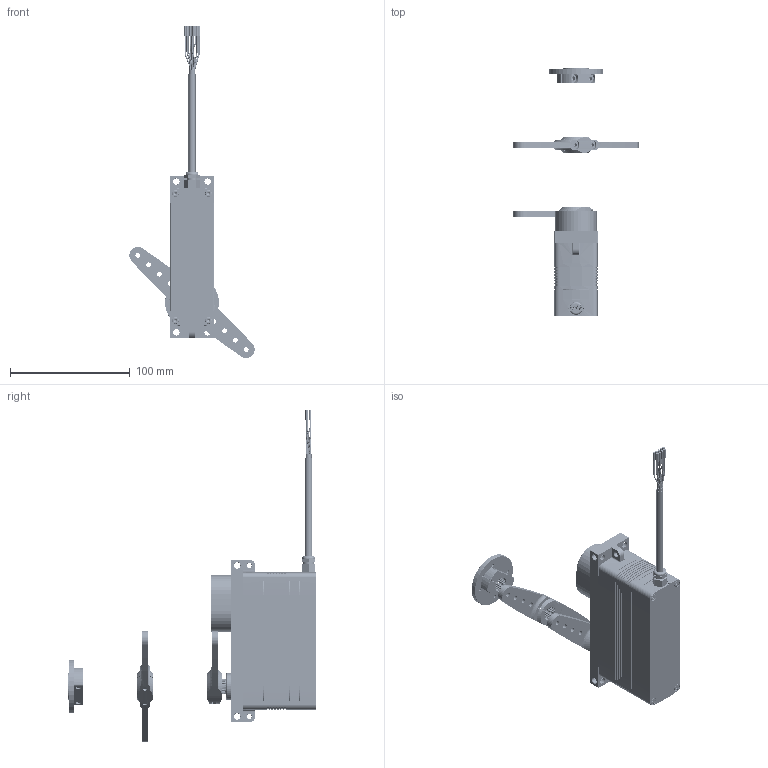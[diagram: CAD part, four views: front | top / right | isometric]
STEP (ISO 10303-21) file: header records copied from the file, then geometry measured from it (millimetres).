
FILE_DESCRIPTION (( 'STEP AP214' ), '1' );
FILE_NAME ('DA 36 LP_Servo SC with arm_00.STEP', '2024-02-13T09:52:26', ( '' ), ( '' ), 'SwSTEP 2.0', 'SolidWorks 2021', '' );
FILE_SCHEMA (( 'AUTOMOTIVE_DESIGN' ));
Length unit declared in the file: millimetre
Products named in the file (12): DIN 912 M4 x 12 --- 12S_DIN 912 M4 x 12 --- 12S; DA 30_Servoscheibe_413-4140-02; DA 30_Servoscheibe_413-4040-02; Helicoil M4 x 8; DIN 912 M4 x 12 --- 12N_DIN 912 M4 x 12 --- 12N; DA 30_Servohebel Doppelarm_413-4900-02; DA 30_Servohebel Doppelarm_413-4930-02; DA 36 LP_Servo SC with arm_00; DA 30_Servohebel Einzelarm_413-4800-04; DA 30_Servohebel Einzelarm_413-4020-04; Teil26^DA 36 Low Profile_Servo SC_693-9000-00; socket head cap screw_din_DIN 912 M4 x 16 --- 16C
Assembly tree (17 placements, depth 3):
  DA 36 LP_Servo SC with arm_00
    DA 30_Servohebel Einzelarm_413-4800-04
      DA 30_Servohebel Einzelarm_413-4020-04
      Helicoil M4 x 8
      DIN 912 M4 x 12 --- 12N_DIN 912 M4 x 12 --- 12N
    DA 30_Servohebel Doppelarm_413-4900-02
      DA 30_Servohebel Doppelarm_413-4930-02
      Helicoil M4 x 8  x2
      socket head cap screw_din_DIN 912 M4 x 16 --- 16C  x2
    DA 30_Servoscheibe_413-4140-02
      DA 30_Servoscheibe_413-4040-02
      DIN 912 M4 x 12 --- 12S_DIN 912 M4 x 12 --- 12S  x2
      Helicoil M4 x 8  x2
    Teil26^DA 36 Low Profile_Servo SC_693-9000-00
Bounding box: 104.55 x 207.4 x 277.18 mm (x, y, z)
Volume: 360742.4 mm3; surface area: 73211.2 mm2
Topology: 14 solids, 159 shells, 3496 faces, 8380 edges, 4994 vertices
Faces by surface type: cylinder 1120, bspline 1058, cone 750, plane 447, torus 121
Full cylindrical faces by diameter (mm): 1 x22, 1.6 x1, 2 x8, 2.5 x141, 3 x160, 3.2 x8, 3.3 x1, 4 x45, 4.2 x7, 4.8 x1, 5 x6, 5.3 x14, 5.5 x8, 5.9 x1, 6.2 x8, 7 x5, 7.5 x5, 8 x1, 9 x1, 10.8 x1, 12 x1, 23 x1, 45 x1
Entity records: 106317 total; most frequent: CARTESIAN_POINT 47634, DIRECTION 11043, ORIENTED_EDGE 10608, EDGE_CURVE 5304, AXIS2_PLACEMENT_3D 4714, EDGE_LOOP 4020, VERTEX_POINT 3822, FACE_OUTER_BOUND 3199
